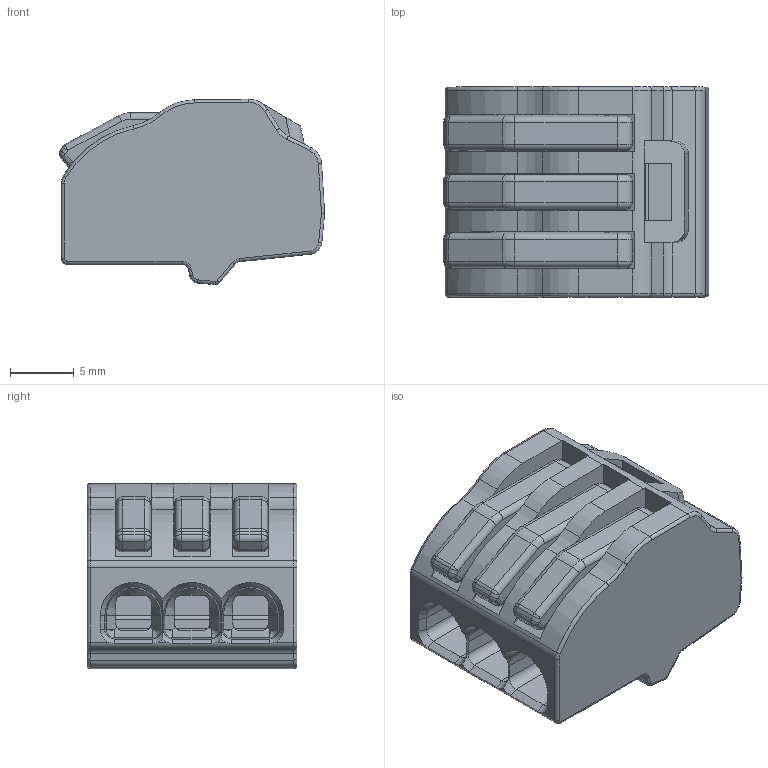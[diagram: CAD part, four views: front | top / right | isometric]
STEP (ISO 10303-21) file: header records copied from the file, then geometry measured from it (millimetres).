
FILE_DESCRIPTION(/* description */ ('Unknown'),/* implementation_level */ '2;1');
FILE_NAME(/* name */ '4503',/* time_stamp */ '2024-05-29T11:02:43+02:00',/* author */ ('Unknown'),/* organization */ ('Unknown'),/* preprocessor_version */ 'ST-DEVELOPER v16.7',/* originating_system */ 'DEX',/* authorisation */ $);
FILE_SCHEMA (('AUTOMOTIVE_DESIGN {1 0 10303 214 3 1 1}'));
Length unit declared in the file: millimetre
Products named in the file (3): 4503; Palanca 4500
Assembly tree (4 placements, depth 2):
  4503
    4503
    Palanca 4500  x3
Bounding box: 20.85 x 16.5 x 14.57 mm (x, y, z)
Volume: 2039.5 mm3; surface area: 3259.2 mm2
Topology: 4 solids, 4 shells, 350 faces, 881 edges, 508 vertices
Faces by surface type: plane 142, cylinder 125, torus 38, cone 27, sphere 18
Entity records: 8016 total; most frequent: CARTESIAN_POINT 1446, DIRECTION 1415, ORIENTED_EDGE 1346, EDGE_CURVE 673, AXIS2_PLACEMENT_3D 502, LINE 411, VECTOR 411, VERTEX_POINT 408
